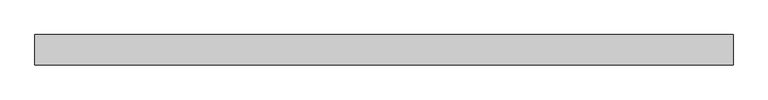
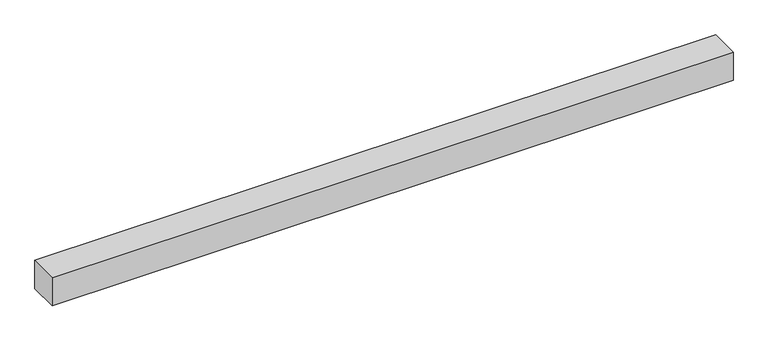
"""IFC4 building model written with IfcOpenShell, lengths in millimetres: proxy geometry, Building-Materials_Other_Daliform_Simple-Family_Accessory_PANEL_for ATLANTIS : PANEL_ATLANTIS-100_diam110_6.5x90x6.5."""

from ifc_helpers import new_model, si_unit, origin, origin_with_axes, place, context, project, spatial, polyline, outline, extrude, source, transform, mapped, element, save


def generic_models_b361eea4(model_context):
    return source(origin(), model_context, "Body", "SweptSolid", [
        extrude(outline(polyline([(0.0, -65.0), (0.0, 0.0), (1485.0, 0.0), (1485.0, -65.0), (0.0, -65.0)])), origin_with_axes(), (0.0, 0.0, 1.0), 65.0),
    ])


if __name__ == "__main__":
    model = new_model("IFC4")
    model_context = context("Model", 3, world=origin())
    ifc_project = project(units=[si_unit("LENGTHUNIT", "METRE", prefix="MILLI")], contexts=[model_context])
    site = spatial("IfcSite", under=ifc_project)
    building = spatial("IfcBuilding", under=site)
    placement = place(None, origin())
    generic_models_shape = generic_models_b361eea4(model_context)
    element("IfcBuildingElementProxy", 1, Name="Building-Materials_Other_Daliform_Simple-Family_Accessory_PANEL_for ATLANTIS : PANEL_ATLANTIS-100_diam110_6.5x90x6.5", ObjectType="Building-Materials_Other_Daliform_Simple-Family_Accessory_PANEL_for ATLANTIS : PANEL_ATLANTIS-100_diam110_6.5x90x6.5", at=placement, inside=building, context=model_context, shape_type="MappedRepresentation", body=[
        mapped(generic_models_shape, transform((0.0, 0.0, 0.0), x_axis=(1.0, 0.0, 0.0), y_axis=(0.0, 1.0, 0.0), z_axis=(0.0, 0.0, 1.0))),
    ])
    save(model, "model.ifc")
